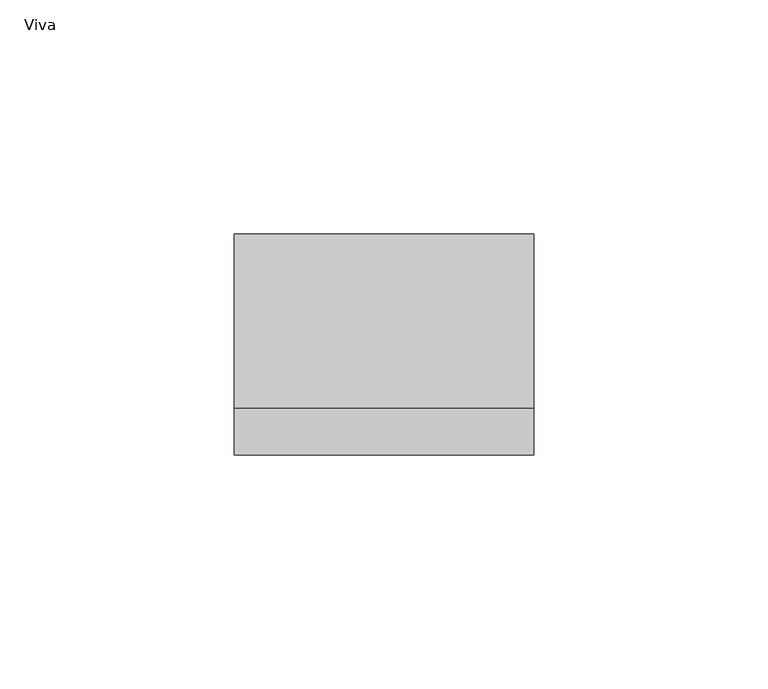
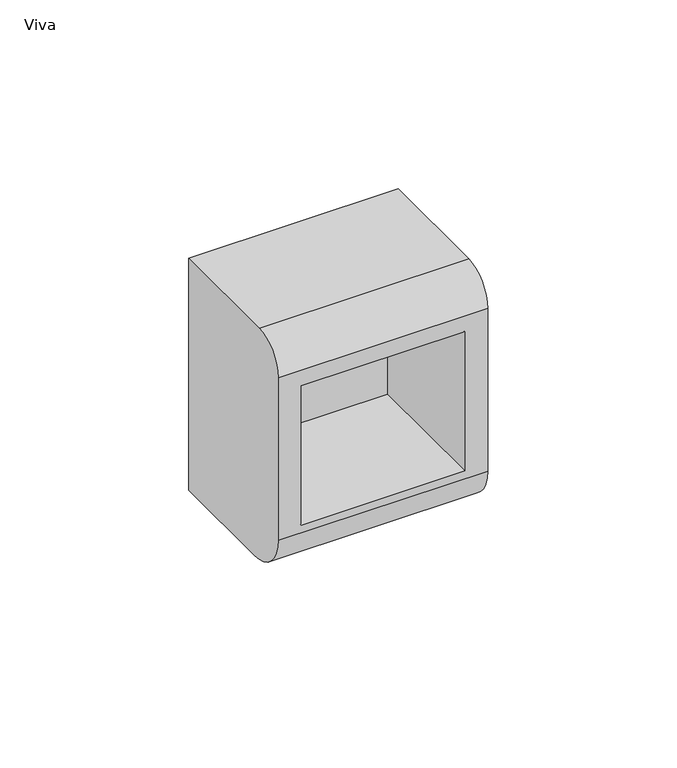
"""IFC4 building model written with IfcOpenShell, lengths in millimetres: proxy geometry, КНС_КоробкаМонтажнаяПод2модуляЭлектроустановочныхИзделий_ILF_DKC : Viva."""

from ifc_helpers import new_model, si_unit, frame, origin, place, context, project, spatial, circle_curve, source, transform, mapped, element, save
from ifc_brep_helpers import plane_surface, cylinder_surface, advanced_brep


def viva_a7b974af(model_context):
    return source(origin(), model_context, "Body", "AdvancedBrep", [
        advanced_brep(
        [(32.0, 0.0, -37.5), (32.0, 0.0, 37.5), (32.0, -37.2, 37.5), (32.0, -47.2, 27.5), (32.0, -47.2, -25.0), (32.0, -34.7, -37.5), (-32.0, 0.0, -37.5), (-32.0, -34.7, -37.5), (-32.0, -47.2, -25.0), (-32.0, -47.2, 27.5), (-32.0, -37.2, 37.5), (-32.0, 0.0, 37.5), (-25.0, -6.3084861, 22.5), (-25.0, -6.3084861, -22.5), (25.0, -6.3084861, -22.5), (25.0, -6.3084861, 22.5), (-25.0, -47.2, 22.5), (-25.0, -47.2, -22.5), (25.0, -47.2, -22.5), (25.0, -47.2, 22.5)],
        [
            (0, 1),
            (1, 2),
            (2, 3, circle_curve(frame((32.0, -37.2, 27.5), z_axis=(1.0, 0.0, 0.0), x_axis=(0.0, 1.0, 0.0)), 10.0)),
            (3, 4),
            (4, 5, circle_curve(frame((32.0, -34.7, -25.0), z_axis=(1.0, 0.0, 0.0), x_axis=(0.0, 1.0, 0.0)), 12.5)),
            (5, 0),
            (6, 7),
            (7, 8, circle_curve(frame((-32.0, -34.7, -25.0), z_axis=(-1.0, 0.0, 0.0), x_axis=(0.0, 1.0, 0.0)), 12.5)),
            (8, 9),
            (9, 10, circle_curve(frame((-32.0, -37.2, 27.5), z_axis=(-1.0, 0.0, 0.0), x_axis=(0.0, 1.0, 0.0)), 10.0)),
            (10, 11),
            (11, 6),
            (0, 6),
            (11, 1),
            (10, 2),
            (5, 7),
            (12, 13),
            (13, 14),
            (14, 15),
            (15, 12),
            (12, 16),
            (16, 17),
            (17, 13),
            (17, 18),
            (18, 14),
            (18, 19),
            (19, 15),
            (19, 16),
            (9, 3),
            (8, 4),
        ],
        [
            plane_surface(frame((32.0, 0.0, 37.5), z_axis=(1.0, 0.0, 0.0), x_axis=(0.0, 0.0, 1.0))),
            plane_surface(frame((-32.0, 0.0, 37.5), z_axis=(-1.0, 0.0, 0.0), x_axis=(0.0, 0.0, -1.0))),
            plane_surface(frame((32.0, 0.0, -37.5), z_axis=(0.0, 1.0, 0.0), x_axis=(-1.0, 0.0, 0.0))),
            plane_surface(frame((32.0, 0.0, 37.5), z_axis=(0.0, 0.0, 1.0), x_axis=(-1.0, 0.0, 0.0))),
            plane_surface(frame((32.0, -34.7, -37.5), z_axis=(0.0, 0.0, -1.0), x_axis=(-1.0, 0.0, 0.0))),
            plane_surface(frame((-25.0, -6.3084861, 22.5), z_axis=(0.0, -1.0, 0.0), x_axis=(0.0, 0.0, 1.0))),
            plane_surface(frame((-25.0, -61.0, 22.5), z_axis=(1.0, 0.0, 0.0), x_axis=(0.0, 1.0, 0.0))),
            plane_surface(frame((-25.0, -61.0, -22.5), z_axis=(0.0, 0.0, 1.0), x_axis=(0.0, 1.0, 0.0))),
            plane_surface(frame((25.0, -61.0, -22.5), z_axis=(-1.0, 0.0, 0.0), x_axis=(0.0, 1.0, 0.0))),
            plane_surface(frame((25.0, -61.0, 22.5), z_axis=(0.0, 0.0, -1.0), x_axis=(0.0, 1.0, 0.0))),
            cylinder_surface(frame((-32.0, -37.2, 27.5), z_axis=(1.0, 0.0, 0.0), x_axis=(0.0, 1.0, 0.0)), 10.0),
            plane_surface(frame((32.0, -47.2, 27.5), z_axis=(0.0, -1.0, 0.0), x_axis=(-1.0, 0.0, 0.0))),
            cylinder_surface(frame((-32.0, -34.7, -25.0), z_axis=(1.0, 0.0, 0.0), x_axis=(0.0, 1.0, 0.0)), 12.5),
        ],
        [
            (0, [[1, 2, 3, 4, 5, 6]]),
            (1, [[7, 8, 9, 10, 11, 12]]),
            (2, [[-1, 13, -12, 14]]),
            (3, [[-2, -14, -11, 15]]),
            (4, [[-6, 16, -7, -13]]),
            (5, [[17, 18, 19, 20]]),
            (6, [[-17, 21, 22, 23]]),
            (7, [[-18, -23, 24, 25]]),
            (8, [[-19, -25, 26, 27]]),
            (9, [[-20, -27, 28, -21]]),
            (10, [[-3, -15, -10, 29]]),
            (11, [[-4, -29, -9, 30], [-22, -28, -26, -24]]),
            (12, [[-5, -30, -8, -16]]),
        ],
    ),
    ])


if __name__ == "__main__":
    model = new_model("IFC4")
    model_context = context("Model", 3, world=origin())
    ifc_project = project(units=[si_unit("LENGTHUNIT", "METRE", prefix="MILLI")], contexts=[model_context])
    site = spatial("IfcSite", under=ifc_project)
    building = spatial("IfcBuilding", under=site)
    placement = place(None, origin())
    viva_shape = viva_a7b974af(model_context)
    element("IfcBuildingElementProxy", 1, Name="КНС_КоробкаМонтажнаяПод2модуляЭлектроустановочныхИзделий_ILF_DKC : Viva", ObjectType="КНС_КоробкаМонтажнаяПод2модуляЭлектроустановочныхИзделий_ILF_DKC : Viva", at=placement, inside=building, context=model_context, shape_type="MappedRepresentation", body=[
        mapped(viva_shape, transform((0.0, 0.0, 0.0), x_axis=(1.0, 0.0, 0.0), y_axis=(0.0, 1.0, 0.0), z_axis=(0.0, 0.0, 1.0))),
    ])
    save(model, "model.ifc")
